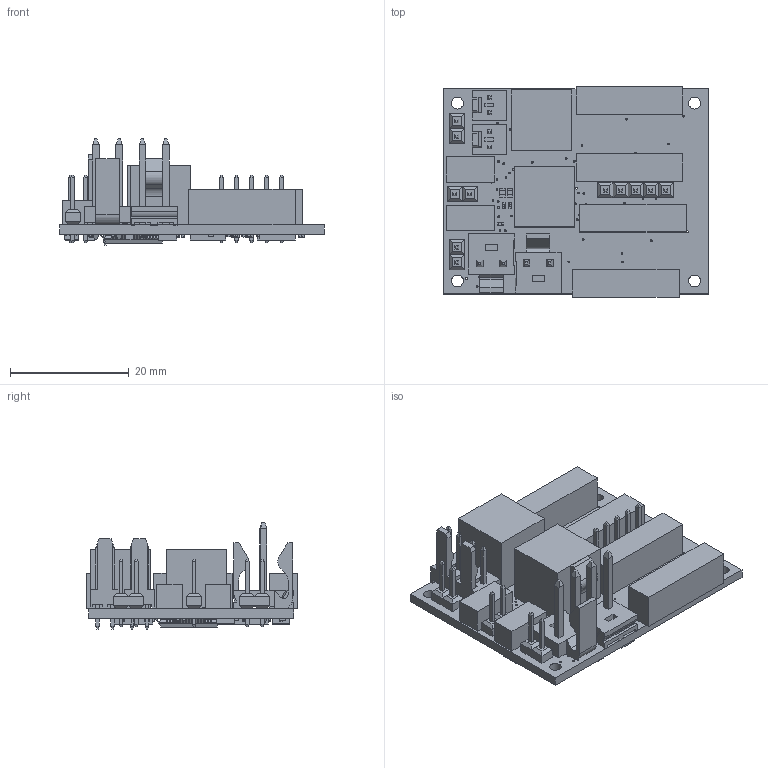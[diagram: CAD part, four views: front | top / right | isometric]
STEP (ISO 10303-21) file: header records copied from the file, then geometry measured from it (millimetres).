
FILE_DESCRIPTION(/* description */ (''),/* implementation_level */ '2;1');
FILE_NAME(/* name */ 'C:/Users/priba/Documents/Temp/Export/mrm-bldc4x2.5 v2.step',/* time_stamp */ '2019-09-09T00:13:51+02:00',/* author */ (''),/* organization */ (''),/* preprocessor_version */ 'ST-DEVELOPER v18',/* originating_system */ 'Autodesk Translation Framework v8.6.0.1094',/* authorisation */ '');
FILE_SCHEMA (('AUTOMOTIVE_DESIGN { 1 0 10303 214 3 1 1 }'));
Products named in the file (33): mrm-bldc4x2.5; PCB Component; Board; MOLEX_1718130002; 10 kOhm; ON_SEMICONDUCTOR_RB751S40T1G; DIODES_MMBT3904-7-F; AON7418; INFINEON_TLE9250XLEXUMA1; STM32F072RBT6; Body; PinsArrayLR; PinsArrayTB; 100 nF; MOLEX_22-27-2021; SOT-23; CHIPLED_0402; 1.5 kOhm; TI_ESD321DPYR; term1; term2; body_1; TI_DRV8313RHHR; Body (1); ThermalPin; PinsArrayLR (1); PinsArrayTB (1); FIDUCIAL1X2; JST_BM04B-GHK-TBT; 1X05; 1X02; JST_B8B-PH-K-S(LF)(SN); PANASONIC_EEEFT1H331GP
Assembly tree (80 placements, depth 4):
  mrm-bldc4x2.5
    PCB Component
      Board
      MOLEX_1718130002  x2
      10 kOhm  x4
      ON_SEMICONDUCTOR_RB751S40T1G
      DIODES_MMBT3904-7-F
      AON7418
      INFINEON_TLE9250XLEXUMA1
      STM32F072RBT6
        Body
        PinsArrayLR
        PinsArrayTB
      100 nF  x25
      MOLEX_22-27-2021  x2
      SOT-23
      CHIPLED_0402  x2
      1.5 kOhm  x2
      TI_ESD321DPYR  x3
        term1
        term2
        body_1
      TI_DRV8313RHHR  x4
        Body (1)
        ThermalPin
        PinsArrayLR (1)
        PinsArrayTB (1)
      FIDUCIAL1X2  x6
      JST_BM04B-GHK-TBT  x2
      1X05
      1X02  x3
      JST_B8B-PH-K-S(LF)(SN)  x4
      PANASONIC_EEEFT1H331GP  x2
Bounding box: 44.6 x 35.5 x 17.92 mm (x, y, z)
Volume: 7971.2 mm3; surface area: 10117.2 mm2
Topology: 303 solids, 303 shells, 4723 faces, 11493 edges, 7241 vertices
Faces by surface type: plane 3014, cylinder 1333, sphere 312, bspline 64
Full cylindrical faces by diameter (mm): 0.3 x114, 0.7 x32, 0.75 x4, 1.016 x11, 1.11 x4, 1.25 x1, 1.73 x4, 2 x4
Entity records: 68532 total; most frequent: CARTESIAN_POINT 13467, ORIENTED_EDGE 10820, DIRECTION 10754, EDGE_CURVE 5410, LINE 4038, VECTOR 4038, VERTEX_POINT 3530, AXIS2_PLACEMENT_3D 3358
